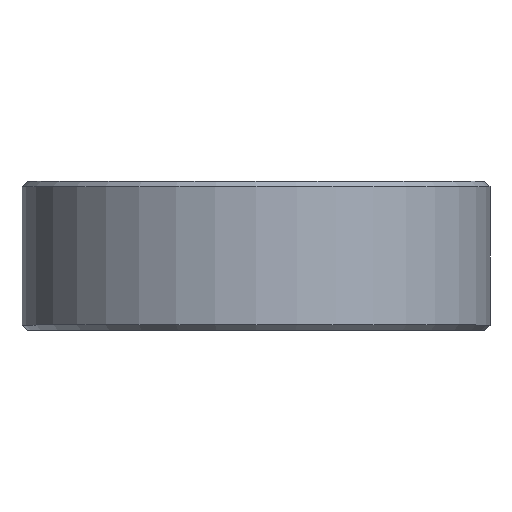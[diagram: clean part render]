
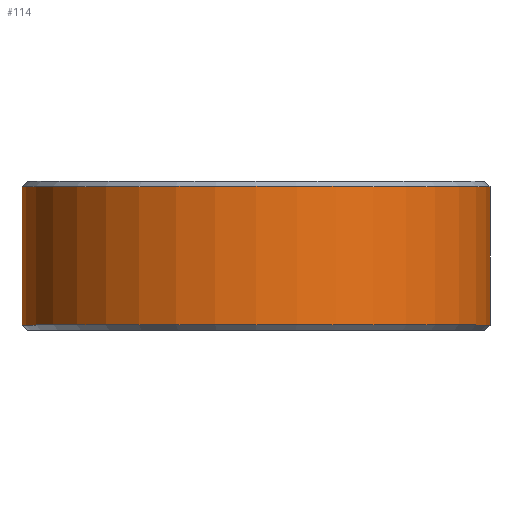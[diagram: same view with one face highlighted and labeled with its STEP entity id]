
A CAD part, top view. The second image highlights one B-rep face of the part: STEP entity #114.
In plain terms, the highlighted cylindrical face has radius 11 mm (diameter 22 mm), a full revolution.
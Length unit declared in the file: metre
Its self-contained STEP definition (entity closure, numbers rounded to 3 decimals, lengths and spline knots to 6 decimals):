
#23=ORIENTED_EDGE('',*,*,#42,.T.);
#24=ORIENTED_EDGE('',*,*,#43,.F.);
#42=EDGE_CURVE('',#52,#52,#62,.T.);
#43=EDGE_CURVE('',#53,#53,#63,.T.);
#52=VERTEX_POINT('',#210);
#53=VERTEX_POINT('',#212);
#62=CIRCLE('',#142,0.011);
#63=CIRCLE('',#143,0.011);
#73=EDGE_LOOP('',(#23));
#74=EDGE_LOOP('',(#24));
#93=FACE_BOUND('',#73,.T.);
#94=FACE_BOUND('',#74,.T.);
#109=CYLINDRICAL_SURFACE('',#141,0.011);
#114=ADVANCED_FACE('',(#93,#94),#109,.T.);
#141=AXIS2_PLACEMENT_3D('',#208,#169,#170);
#142=AXIS2_PLACEMENT_3D('',#209,#171,#172);
#143=AXIS2_PLACEMENT_3D('',#211,#173,#174);
#169=DIRECTION('',(0.,1.,0.));
#170=DIRECTION('',(1.,0.,0.));
#171=DIRECTION('',(0.,1.,0.));
#172=DIRECTION('',(1.,0.,0.));
#173=DIRECTION('',(0.,1.,0.));
#174=DIRECTION('',(1.,0.,0.));
#208=CARTESIAN_POINT('',(0.,-0.0035,0.));
#209=CARTESIAN_POINT('',(0.,-0.00325,0.));
#210=CARTESIAN_POINT('',(0.011,-0.00325,0.));
#211=CARTESIAN_POINT('',(0.,0.00325,0.));
#212=CARTESIAN_POINT('',(0.011,0.00325,0.));
